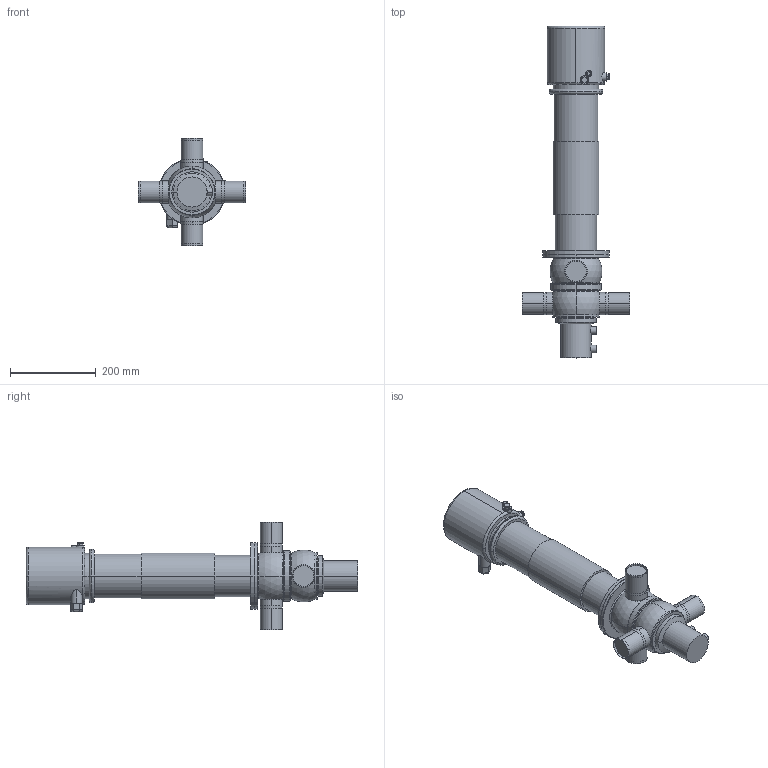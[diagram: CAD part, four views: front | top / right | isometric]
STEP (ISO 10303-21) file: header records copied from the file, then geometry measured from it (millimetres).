
FILE_DESCRIPTION(('Creo Elements/Direct Modeling STEP Export'),'2;1');
FILE_NAME('D44-2T_CU4.stp','2019-09-03T14:31:19',(''),(''),'PTC Creo Elements/Direct Modeling STEP processor for AP214 (Solid Model)','PTC Creo Elements/Direct Modeling 19.0B 21-Mar-2015 (C) Parametric Technology GmbH','');
FILE_SCHEMA(('AUTOMOTIVE_DESIGN { 1 0 10303 214 1 1 1 1 }'));
Length unit declared in the file: millimetre
Products named in the file (5): CU41-D4; housing_D44-2T; actuator_D4-100_yoke; drain_pipe-62; D44-2T_CU4
Assembly tree (4 placements, depth 2):
  D44-2T_CU4
    drain_pipe-62
    actuator_D4-100_yoke
    housing_D44-2T
    CU41-D4
Bounding box: 250 x 772.7 x 250 mm (x, y, z)
Volume: 7970378 mm3; surface area: 453783.8 mm2
Topology: 4 solids, 4 shells, 256 faces, 587 edges, 371 vertices
Faces by surface type: cylinder 108, plane 63, extrusion 33, torus 32, cone 16, sphere 4
Entity records: 11115 total; most frequent: CARTESIAN_POINT 5667, ORIENTED_EDGE 1174, DIRECTION 998, EDGE_CURVE 587, AXIS2_PLACEMENT_3D 390, VERTEX_POINT 371, EDGE_LOOP 288, FACE_OUTER_BOUND 256
